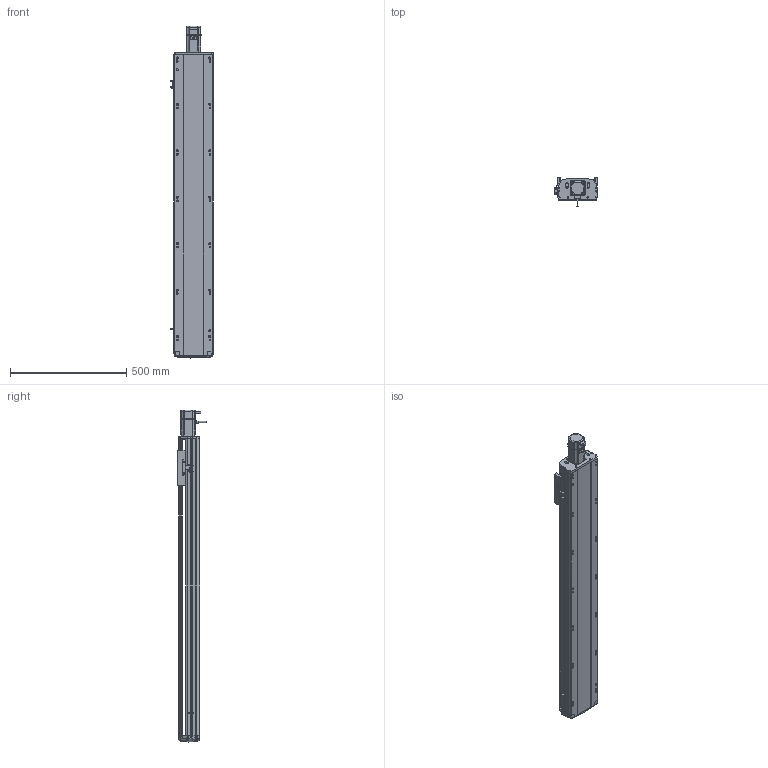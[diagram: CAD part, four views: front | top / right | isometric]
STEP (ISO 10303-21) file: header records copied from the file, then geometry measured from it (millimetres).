
FILE_DESCRIPTION (( 'STEP AP214' ), '1' );
FILE_NAME ('RTH17-XX-1050-E-M40-C4.STEP', '2025-10-24T05:45:09', ( '' ), ( '' ), 'SwSTEP 2.0', 'SolidWorks 2018', '' );
FILE_SCHEMA (( 'AUTOMOTIVE_DESIGN' ));
Length unit declared in the file: millimetre
Products named in the file (9): N_RTH-BL-012 感应片(外置)^RTH17-XX-XX-E-M40-C4（方程式）; N_RTH17-E-007上盖^RTH17-XX-XX-E-M40-C4（方程式）; N_RTH17-E-004丝杆螺母连接座^RTH17-XX-XX-E-M40-C4（方程式）; N_RTH17-GY-001P^RTH17-XX-XX-E-M40-C4（方程式）; RTH17-XX-1050-E-M40-C4; N_RTH17-E-008-P40电机板^RTH17-XX-XX-E-M40-C4（方程式）; N_M40^RTH17-XX-XX-E-M40-C4（方程式）; N_RTH17-E-011底座^RTH17-XX-XX-E-M40-C4（方程式）; N_OMRON EE-SX672 換覜ん^RTH17-XX-XX-E-M40-C4ㄗ源最宒ㄘ
Assembly tree (10 placements, depth 2):
  RTH17-XX-1050-E-M40-C4
    N_RTH17-E-011底座^RTH17-XX-XX-E-M40-C4（方程式）
    N_RTH17-E-007上盖^RTH17-XX-XX-E-M40-C4（方程式）
    N_RTH17-E-008-P40电机板^RTH17-XX-XX-E-M40-C4（方程式）
    N_OMRON EE-SX672 換覜ん^RTH17-XX-XX-E-M40-C4ㄗ源最宒ㄘ  x3
    N_RTH-BL-012 感应片(外置)^RTH17-XX-XX-E-M40-C4（方程式）
    N_RTH17-E-004丝杆螺母连接座^RTH17-XX-XX-E-M40-C4（方程式）
    N_RTH17-GY-001P^RTH17-XX-XX-E-M40-C4（方程式）
    N_M40^RTH17-XX-XX-E-M40-C4（方程式）
Bounding box: 183.5 x 127 x 1430.69 mm (x, y, z)
Volume: 10194347.2 mm3; surface area: 1349968.1 mm2
Topology: 9 solids, 11 shells, 1697 faces, 4765 edges, 3110 vertices
Faces by surface type: plane 831, cylinder 499, bspline 330, cone 28, torus 9
Entity records: 50333 total; most frequent: CARTESIAN_POINT 20032, ORIENTED_EDGE 6554, DIRECTION 5445, EDGE_CURVE 3281, VERTEX_POINT 2146, AXIS2_PLACEMENT_3D 1816, VECTOR 1813, LINE 1813
